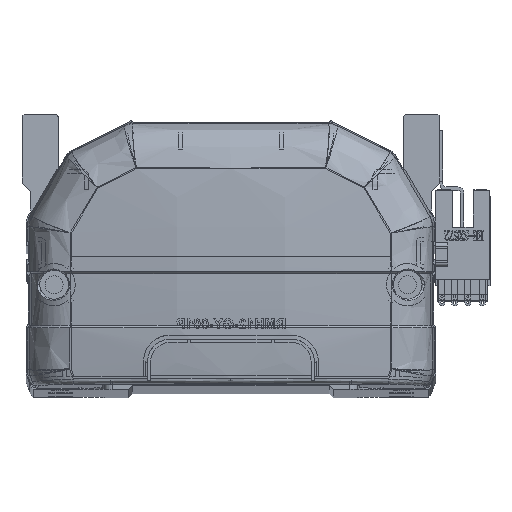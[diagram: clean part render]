
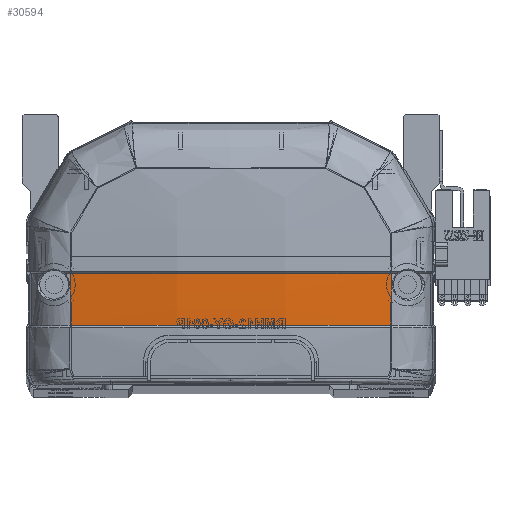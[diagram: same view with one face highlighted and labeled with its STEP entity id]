
A CAD part, top view. The second image highlights one B-rep face of the part: STEP entity #30594.
In plain terms, the highlighted free-form (B-spline) face has degree [3, 3] with [4, 4] control points.
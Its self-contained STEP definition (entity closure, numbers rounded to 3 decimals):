
#572 = CARTESIAN_POINT ( 'NONE',  ( -39.985, 15.83, -5.879 ) ) ;
#1576 = ORIENTED_EDGE ( 'NONE', *, *, #45831, .T. ) ;
#1836 = CARTESIAN_POINT ( 'NONE',  ( 39.985, 15.83, -5.879 ) ) ;
#1954 = CARTESIAN_POINT ( 'NONE',  ( 39.963, 28.706, -6.372 ) ) ;
#2287 = CARTESIAN_POINT ( 'NONE',  ( 13.38, 15.83, -8.984 ) ) ;
#4055 = B_SPLINE_CURVE_WITH_KNOTS ( 'NONE', 3,
 ( #37635, #41931, #34489, #572 ),
 .UNSPECIFIED., .F., .F.,
 ( 4, 4 ),
 ( 0., 1. ),
 .UNSPECIFIED. ) ;
#4791 = CARTESIAN_POINT ( 'NONE',  ( -13.598, 15.499, -10.032 ) ) ;
#5263 = CARTESIAN_POINT ( 'NONE',  ( 39.963, 28.706, -6.372 ) ) ;
#5288 = CARTESIAN_POINT ( 'NONE',  ( 13.598, 24.342, -10.47 ) ) ;
#6208 = CARTESIAN_POINT ( 'NONE',  ( -39.985, 15.83, -5.879 ) ) ;
#7597 = CARTESIAN_POINT ( 'NONE',  ( 39.985, 15.83, -5.879 ) ) ;
#7625 = VERTEX_POINT ( 'NONE', #36989 ) ;
#9229 = CARTESIAN_POINT ( 'NONE',  ( -13.598, 24.342, -10.47 ) ) ;
#9530 = CARTESIAN_POINT ( 'NONE',  ( 39.973, 20.12, -6.142 ) ) ;
#10146 = CARTESIAN_POINT ( 'NONE',  ( -33.365, 15.83, -6.848 ) ) ;
#11360 = VERTEX_POINT ( 'NONE', #50397 ) ;
#12816 = CARTESIAN_POINT ( 'NONE',  ( 40.461, 15.757, -5.8 ) ) ;
#12981 = CARTESIAN_POINT ( 'NONE',  ( 40.461, 28.832, -6.296 ) ) ;
#16778 = CARTESIAN_POINT ( 'NONE',  ( 13.598, 19.918, -10.302 ) ) ;
#16806 = CARTESIAN_POINT ( 'NONE',  ( 39.963, 28.706, -6.372 ) ) ;
#17207 = CARTESIAN_POINT ( 'NONE',  ( -13.373, 28.707, -9.468 ) ) ;
#17382 = CARTESIAN_POINT ( 'NONE',  ( 26.749, 28.706, -8.432 ) ) ;
#18199 = CARTESIAN_POINT ( 'NONE',  ( -13.384, 15.83, -8.724 ) ) ;
#20523 = CARTESIAN_POINT ( 'NONE',  ( 40.461, 24.47, -6.231 ) ) ;
#21716 = ORIENTED_EDGE ( 'NONE', *, *, #28225, .F. ) ;
#21880 = ORIENTED_EDGE ( 'NONE', *, *, #36816, .T. ) ;
#22183 = B_SPLINE_CURVE_WITH_KNOTS ( 'NONE', 3,
 ( #40685, #29017, #17207, #41034, #17382, #1954 ),
 .UNSPECIFIED., .F., .F.,
 ( 4, 2, 4 ),
 ( 0., 0.5, 1. ),
 .UNSPECIFIED. ) ;
#23759 = VERTEX_POINT ( 'NONE', #7597 ) ;
#24512 =( BOUNDED_SURFACE ( )  B_SPLINE_SURFACE ( 3, 3, ( 
 ( #12816, #28236, #20523, #12981 ),
 ( #28573, #16778, #5288, #48311 ),
 ( #4791, #32201, #9229, #36641 ),
 ( #48134, #32526, #36145, #24947 ) ),
 .UNSPECIFIED., .F., .F., .F. ) 
 B_SPLINE_SURFACE_WITH_KNOTS ( ( 4, 4 ),
 ( 4, 4 ),
 ( 0., 1. ),
 ( 0., 1. ),
 .UNSPECIFIED. ) 
 GEOMETRIC_REPRESENTATION_ITEM ( )  RATIONAL_B_SPLINE_SURFACE ( (
 ( 1., 1., 1., 1.),
 ( 0.992, 0.992, 0.992, 0.992),
 ( 0.992, 0.992, 0.992, 0.992),
 ( 1., 1., 1., 1.) ) ) 
 REPRESENTATION_ITEM ( '' )  SURFACE ( )  );
#24947 = CARTESIAN_POINT ( 'NONE',  ( -40.461, 28.832, -6.296 ) ) ;
#25715 = CARTESIAN_POINT ( 'NONE',  ( 26.761, 15.83, -7.945 ) ) ;
#27163 = EDGE_CURVE ( 'NONE', #7625, #29473, #22183, .T. ) ;
#28225 = EDGE_CURVE ( 'NONE', #23759, #11360, #35755, .T. ) ;
#28236 = CARTESIAN_POINT ( 'NONE',  ( 40.461, 20.111, -6.066 ) ) ;
#28345 = FACE_OUTER_BOUND ( 'NONE', #30577, .T. ) ;
#28573 = CARTESIAN_POINT ( 'NONE',  ( 13.598, 15.499, -10.032 ) ) ;
#29017 = CARTESIAN_POINT ( 'NONE',  ( -26.748, 28.706, -8.432 ) ) ;
#29473 = VERTEX_POINT ( 'NONE', #16806 ) ;
#30577 = EDGE_LOOP ( 'NONE', ( #21880, #36959, #1576, #21716 ) ) ;
#30594 = ADVANCED_FACE ( 'NONE', ( #28345 ), #24512, .F. ) ;
#32201 = CARTESIAN_POINT ( 'NONE',  ( -13.598, 19.918, -10.302 ) ) ;
#32526 = CARTESIAN_POINT ( 'NONE',  ( -40.461, 20.111, -6.066 ) ) ;
#33654 = CARTESIAN_POINT ( 'NONE',  ( -26.721, 15.83, -7.624 ) ) ;
#34489 = CARTESIAN_POINT ( 'NONE',  ( -39.973, 20.118, -6.142 ) ) ;
#34643 = B_SPLINE_CURVE_WITH_KNOTS ( 'NONE', 3,
 ( #1836, #9530, #37125, #5263 ),
 .UNSPECIFIED., .F., .F.,
 ( 4, 4 ),
 ( 0., 1. ),
 .UNSPECIFIED. ) ;
#35755 = B_SPLINE_CURVE_WITH_KNOTS ( 'NONE', 3,
 ( #41369, #25715, #2287, #41532, #18199, #45644, #33654, #10146, #44952, #6208 ),
 .UNSPECIFIED., .F., .F.,
 ( 4, 2, 2, 2, 4 ),
 ( 0., 0.04, 0.06, 0.07, 0.08 ),
 .UNSPECIFIED. ) ;
#36145 = CARTESIAN_POINT ( 'NONE',  ( -40.461, 24.47, -6.231 ) ) ;
#36641 = CARTESIAN_POINT ( 'NONE',  ( -13.598, 28.769, -10.535 ) ) ;
#36816 = EDGE_CURVE ( 'NONE', #23759, #29473, #34643, .T. ) ;
#36959 = ORIENTED_EDGE ( 'NONE', *, *, #27163, .F. ) ;
#36989 = CARTESIAN_POINT ( 'NONE',  ( -39.963, 28.706, -6.372 ) ) ;
#37125 = CARTESIAN_POINT ( 'NONE',  ( 39.966, 24.413, -6.306 ) ) ;
#37635 = CARTESIAN_POINT ( 'NONE',  ( -39.963, 28.706, -6.372 ) ) ;
#40685 = CARTESIAN_POINT ( 'NONE',  ( -39.963, 28.706, -6.372 ) ) ;
#41034 = CARTESIAN_POINT ( 'NONE',  ( 13.375, 28.707, -9.468 ) ) ;
#41369 = CARTESIAN_POINT ( 'NONE',  ( 39.985, 15.83, -5.879 ) ) ;
#41532 = CARTESIAN_POINT ( 'NONE',  ( -6.692, 15.83, -8.984 ) ) ;
#41931 = CARTESIAN_POINT ( 'NONE',  ( -39.966, 24.412, -6.306 ) ) ;
#44952 = CARTESIAN_POINT ( 'NONE',  ( -36.679, 15.83, -6.395 ) ) ;
#45644 = CARTESIAN_POINT ( 'NONE',  ( -23.389, 15.83, -7.947 ) ) ;
#45831 = EDGE_CURVE ( 'NONE', #7625, #11360, #4055, .T. ) ;
#48134 = CARTESIAN_POINT ( 'NONE',  ( -40.461, 15.757, -5.8 ) ) ;
#48311 = CARTESIAN_POINT ( 'NONE',  ( 13.598, 28.769, -10.535 ) ) ;
#50397 = CARTESIAN_POINT ( 'NONE',  ( -39.985, 15.83, -5.879 ) ) ;
